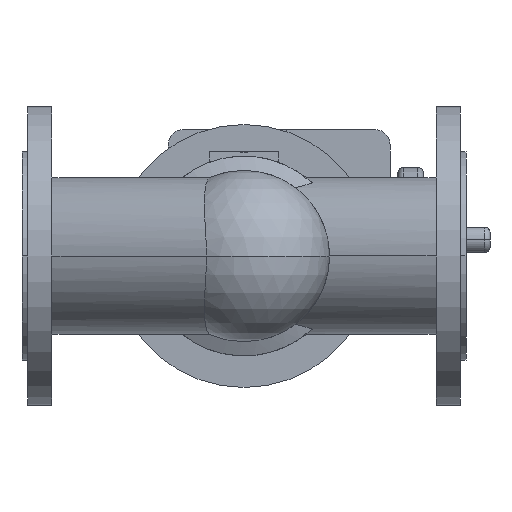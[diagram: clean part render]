
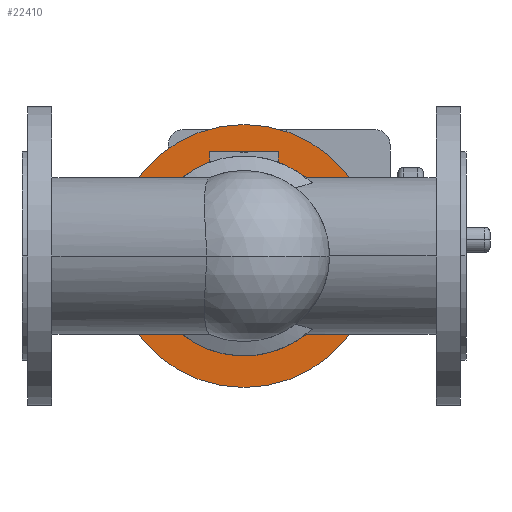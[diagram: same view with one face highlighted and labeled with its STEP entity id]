
A CAD part, front view. The second image highlights one B-rep face of the part: STEP entity #22410.
In plain terms, the highlighted planar face has unit normal (0, -1, 0).
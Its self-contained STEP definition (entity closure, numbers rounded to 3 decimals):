
#1340=CARTESIAN_POINT('',(81.5,114.2,0.));
#1350=VERTEX_POINT('',#1340);
#1530=CARTESIAN_POINT('',(318.5,114.2,0.));
#1540=VERTEX_POINT('',#1530);
#1570=CARTESIAN_POINT('',(200.,114.2,0.));
#1580=DIRECTION('',(0.,-1.,0.));
#1590=DIRECTION('',(-1.,0.,0.));
#1600=AXIS2_PLACEMENT_3D('',#1570,#1580,#1590);
#1610=CIRCLE('',#1600,118.5);
#1620=EDGE_CURVE('',#1540,#1350,#1610,.T.);
#1780=CARTESIAN_POINT('',(110.,114.2,0.));
#1790=VERTEX_POINT('',#1780);
#1820=CARTESIAN_POINT('',(200.,114.2,0.));
#1830=DIRECTION('',(0.,-1.,0.));
#1840=DIRECTION('',(-1.,0.,0.));
#1850=AXIS2_PLACEMENT_3D('',#1820,#1830,#1840);
#1860=CIRCLE('',#1850,90.);
#1870=CARTESIAN_POINT('',(290.,114.2,0.));
#1880=VERTEX_POINT('',#1870);
#1890=EDGE_CURVE('',#1880,#1790,#1860,.T.);
#22260=CARTESIAN_POINT('',(95.75,114.2,0.));
#22270=DIRECTION('',(0.,-1.,0.));
#22280=DIRECTION('',(-1.,0.,0.));
#22290=AXIS2_PLACEMENT_3D('',#22260,#22270,#22280);
#22300=PLANE('',#22290);
#22310=EDGE_CURVE('',#1790,#1880,#1860,.T.);
#22320=ORIENTED_EDGE('',*,*,#22310,.F.);
#22330=ORIENTED_EDGE('',*,*,#1890,.F.);
#22340=EDGE_LOOP('',(#22330,#22320));
#22350=FACE_BOUND('',#22340,.T.);
#22360=EDGE_CURVE('',#1350,#1540,#1610,.T.);
#22370=ORIENTED_EDGE('',*,*,#22360,.T.);
#22380=ORIENTED_EDGE('',*,*,#1620,.T.);
#22390=EDGE_LOOP('',(#22380,#22370));
#22400=FACE_OUTER_BOUND('',#22390,.T.);
#22410=ADVANCED_FACE('',(#22350,#22400),#22300,.T.);
